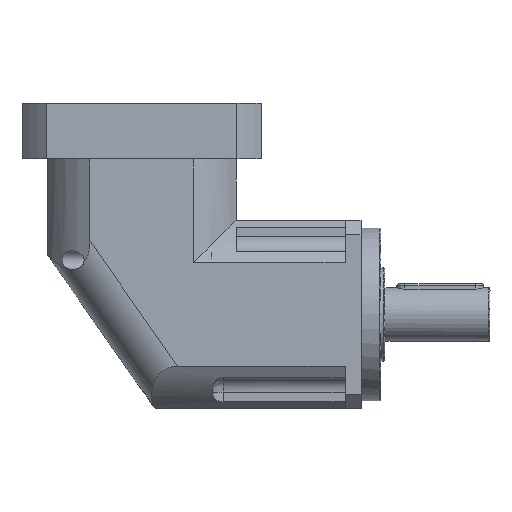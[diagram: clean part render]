
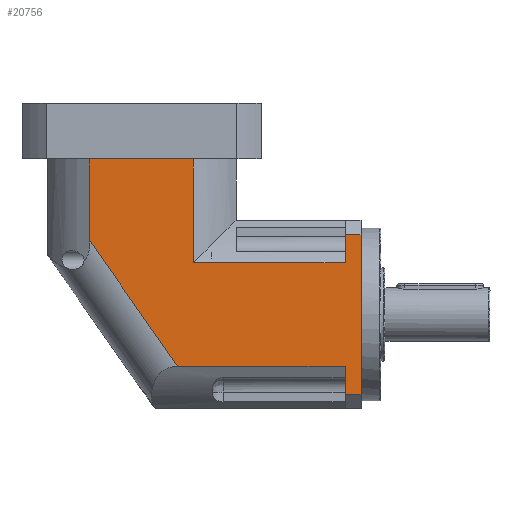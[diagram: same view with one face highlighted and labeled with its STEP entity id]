
A CAD part, front view. The second image highlights one B-rep face of the part: STEP entity #20756.
In plain terms, the highlighted planar face has unit normal (0, -1, 0).
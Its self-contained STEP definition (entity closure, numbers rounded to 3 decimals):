
#1952 = CARTESIAN_POINT ( 'NONE',  ( -12., -70.999, 38.991 ) ) ;
#2002 = CARTESIAN_POINT ( 'NONE',  ( -12., -71., 46.017 ) ) ;
#2043 = CARTESIAN_POINT ( 'NONE',  ( -12., -71., 53.042 ) ) ;
#2104 = CARTESIAN_POINT ( 'NONE',  ( -12., -71., 60.067 ) ) ;
#2156 = DIRECTION ( 'NONE',  ( -1., 0., 0. ) ) ;
#2164 = CARTESIAN_POINT ( 'NONE',  ( 0., -71., 60.067 ) ) ;
#2443 = ORIENTED_EDGE ( 'NONE', *, *, #49084, .T. ) ;
#2662 = EDGE_LOOP ( 'NONE', ( #46955, #33886, #43816, #44217, #33639, #33687, #18576, #12367, #2443, #12742, #7701 ) ) ;
#3415 = LINE ( 'NONE', #11001, #42631 ) ;
#3754 = VECTOR ( 'NONE', #39525, 1000. ) ;
#4195 = CARTESIAN_POINT ( 'NONE',  ( -12., -70.999, 38.991 ) ) ;
#4977 = CARTESIAN_POINT ( 'NONE',  ( -12., -70.999, -38.991 ) ) ;
#5018 = CARTESIAN_POINT ( 'NONE',  ( -53.961, -71., -38.99 ) ) ;
#5129 = CARTESIAN_POINT ( 'NONE',  ( -137.883, -71., -38.987 ) ) ;
#5137 = CARTESIAN_POINT ( 'NONE',  ( -95.922, -71., -38.989 ) ) ;
#5311 = VERTEX_POINT ( 'NONE', #23874 ) ;
#5712 = VERTEX_POINT ( 'NONE', #17167 ) ;
#5850 = VERTEX_POINT ( 'NONE', #15029 ) ;
#6221 = VECTOR ( 'NONE', #12024, 1000. ) ;
#6619 = VERTEX_POINT ( 'NONE', #4195 ) ;
#7424 = LINE ( 'NONE', #12018, #6221 ) ;
#7701 = ORIENTED_EDGE ( 'NONE', *, *, #42668, .T. ) ;
#9033 = CARTESIAN_POINT ( 'NONE',  ( -12., -71., 60.067 ) ) ;
#9610 = FACE_OUTER_BOUND ( 'NONE', #2662, .T. ) ;
#10738 = DIRECTION ( 'NONE',  ( 0., 0., 1. ) ) ;
#11001 = CARTESIAN_POINT ( 'NONE',  ( 0., -71., -71. ) ) ;
#11728 = B_SPLINE_CURVE_WITH_KNOTS ( 'NONE', 3,
 ( #2104, #2043, #2002, #1952 ),
 .UNSPECIFIED., .F., .F.,
 ( 4, 4 ),
 ( 0., 1. ),
 .UNSPECIFIED. ) ;
#11865 = VECTOR ( 'NONE', #16460, 1000. ) ;
#11944 = VERTEX_POINT ( 'NONE', #9033 ) ;
#12018 = CARTESIAN_POINT ( 'NONE',  ( -203.987, -71., 55.42 ) ) ;
#12024 = DIRECTION ( 'NONE',  ( 0.574, 0., -0.819 ) ) ;
#12367 = ORIENTED_EDGE ( 'NONE', *, *, #46992, .T. ) ;
#12397 = LINE ( 'NONE', #2164, #32442 ) ;
#12742 = ORIENTED_EDGE ( 'NONE', *, *, #42436, .T. ) ;
#14468 = CARTESIAN_POINT ( 'NONE',  ( -12., -71., -71. ) ) ;
#14795 = VECTOR ( 'NONE', #31369, 1000. ) ;
#15029 = CARTESIAN_POINT ( 'NONE',  ( -12., -71., -60.067 ) ) ;
#16460 = DIRECTION ( 'NONE',  ( 0., 0., 1. ) ) ;
#17104 = CARTESIAN_POINT ( 'NONE',  ( -126.013, -71., -71. ) ) ;
#17167 = CARTESIAN_POINT ( 'NONE',  ( 0., -71., 60.067 ) ) ;
#17445 = LINE ( 'NONE', #31380, #14795 ) ;
#17634 = VERTEX_POINT ( 'NONE', #44352 ) ;
#18172 = CARTESIAN_POINT ( 'NONE',  ( -126.013, -71., 38.987 ) ) ;
#18384 = DIRECTION ( 'NONE',  ( 0., 0., -1. ) ) ;
#18576 = ORIENTED_EDGE ( 'NONE', *, *, #23017, .T. ) ;
#19282 = CARTESIAN_POINT ( 'NONE',  ( -126.013, -71., 117. ) ) ;
#20756 = ADVANCED_FACE ( 'NONE', ( #9610 ), #22280, .T. ) ;
#20895 = VECTOR ( 'NONE', #18384, 1000. ) ;
#21784 = LINE ( 'NONE', #14468, #20895 ) ;
#21955 = DIRECTION ( 'NONE',  ( 0., 0., -1. ) ) ;
#21965 = DIRECTION ( 'NONE',  ( 0., -1., 0. ) ) ;
#22016 = CARTESIAN_POINT ( 'NONE',  ( 0., -71., -71. ) ) ;
#22280 = PLANE ( 'NONE',  #49279 ) ;
#23017 = EDGE_CURVE ( 'NONE', #27390, #47474, #48219, .T. ) ;
#23874 = CARTESIAN_POINT ( 'NONE',  ( 0., -71., -60.067 ) ) ;
#24448 = VERTEX_POINT ( 'NONE', #41722 ) ;
#24650 = EDGE_CURVE ( 'NONE', #5850, #5311, #17445, .T. ) ;
#25172 = LINE ( 'NONE', #36587, #44021 ) ;
#25342 = CARTESIAN_POINT ( 'NONE',  ( -126.013, -71., 38.987 ) ) ;
#25433 = CARTESIAN_POINT ( 'NONE',  ( -88.009, -71., 38.989 ) ) ;
#25635 = B_SPLINE_CURVE_WITH_KNOTS ( 'NONE', 3,
 ( #5129, #5137, #5018, #4977 ),
 .UNSPECIFIED., .F., .F.,
 ( 4, 4 ),
 ( 0., 1. ),
 .UNSPECIFIED. ) ;
#25670 = CARTESIAN_POINT ( 'NONE',  ( -50.004, -71., 38.99 ) ) ;
#26359 = CARTESIAN_POINT ( 'NONE',  ( -12., -70.999, 38.991 ) ) ;
#27390 = VERTEX_POINT ( 'NONE', #18172 ) ;
#27492 = EDGE_CURVE ( 'NONE', #43349, #5850, #21784, .T. ) ;
#31369 = DIRECTION ( 'NONE',  ( 1., 0., 0. ) ) ;
#31380 = CARTESIAN_POINT ( 'NONE',  ( 0., -71., -60.067 ) ) ;
#32045 = VERTEX_POINT ( 'NONE', #41081 ) ;
#32442 = VECTOR ( 'NONE', #2156, 1000. ) ;
#33639 = ORIENTED_EDGE ( 'NONE', *, *, #48374, .T. ) ;
#33687 = ORIENTED_EDGE ( 'NONE', *, *, #41959, .T. ) ;
#33886 = ORIENTED_EDGE ( 'NONE', *, *, #24650, .T. ) ;
#35278 = LINE ( 'NONE', #39620, #3754 ) ;
#35876 = DIRECTION ( 'NONE',  ( -1., 0., 0. ) ) ;
#36587 = CARTESIAN_POINT ( 'NONE',  ( 0., -71., 117. ) ) ;
#39525 = DIRECTION ( 'NONE',  ( 0., 0., -1. ) ) ;
#39620 = CARTESIAN_POINT ( 'NONE',  ( -203.987, -71., -71. ) ) ;
#41081 = CARTESIAN_POINT ( 'NONE',  ( -137.883, -71., -38.987 ) ) ;
#41699 = CARTESIAN_POINT ( 'NONE',  ( -12., -70.999, -38.991 ) ) ;
#41722 = CARTESIAN_POINT ( 'NONE',  ( -203.987, -71., 117. ) ) ;
#41959 = EDGE_CURVE ( 'NONE', #6619, #27390, #43444, .T. ) ;
#42436 = EDGE_CURVE ( 'NONE', #17634, #32045, #7424, .T. ) ;
#42631 = VECTOR ( 'NONE', #10738, 1000. ) ;
#42668 = EDGE_CURVE ( 'NONE', #32045, #43349, #25635, .T. ) ;
#43349 = VERTEX_POINT ( 'NONE', #41699 ) ;
#43444 = B_SPLINE_CURVE_WITH_KNOTS ( 'NONE', 3,
 ( #26359, #25670, #25433, #25342 ),
 .UNSPECIFIED., .F., .F.,
 ( 4, 4 ),
 ( 0., 1. ),
 .UNSPECIFIED. ) ;
#43816 = ORIENTED_EDGE ( 'NONE', *, *, #47919, .T. ) ;
#44021 = VECTOR ( 'NONE', #35876, 1000. ) ;
#44217 = ORIENTED_EDGE ( 'NONE', *, *, #48366, .T. ) ;
#44352 = CARTESIAN_POINT ( 'NONE',  ( -203.987, -71., 55.42 ) ) ;
#46955 = ORIENTED_EDGE ( 'NONE', *, *, #27492, .T. ) ;
#46992 = EDGE_CURVE ( 'NONE', #47474, #24448, #25172, .T. ) ;
#47474 = VERTEX_POINT ( 'NONE', #19282 ) ;
#47919 = EDGE_CURVE ( 'NONE', #5311, #5712, #3415, .T. ) ;
#48219 = LINE ( 'NONE', #17104, #11865 ) ;
#48366 = EDGE_CURVE ( 'NONE', #5712, #11944, #12397, .T. ) ;
#48374 = EDGE_CURVE ( 'NONE', #11944, #6619, #11728, .T. ) ;
#49084 = EDGE_CURVE ( 'NONE', #24448, #17634, #35278, .T. ) ;
#49279 = AXIS2_PLACEMENT_3D ( 'NONE', #22016, #21965, #21955 ) ;
